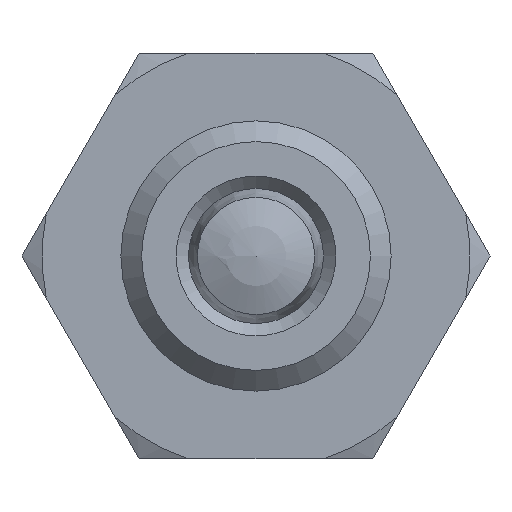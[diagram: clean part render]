
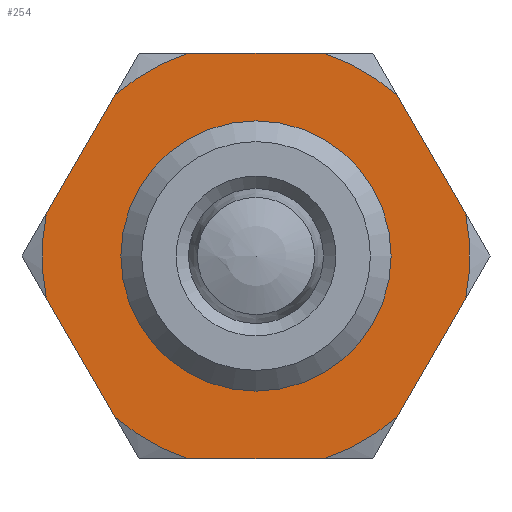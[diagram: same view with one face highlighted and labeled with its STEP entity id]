
A CAD part, left-side view. The second image highlights one B-rep face of the part: STEP entity #254.
In plain terms, the highlighted planar face has unit normal (-1, 0, 0) as drawn and (1, 0, 0) by its records, which use the part's own axes.
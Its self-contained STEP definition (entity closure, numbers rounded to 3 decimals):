
#254 = ADVANCED_FACE( '', ( #408, #409 ), #410, .F. );
#408 = FACE_BOUND( '', #582, .T. );
#409 = FACE_OUTER_BOUND( '', #583, .T. );
#410 = PLANE( '', #584 );
#582 = EDGE_LOOP( '', ( #908 ) );
#583 = EDGE_LOOP( '', ( #909, #910, #911, #912, #913, #914, #915, #916, #917, #918, #919, #920 ) );
#584 = AXIS2_PLACEMENT_3D( '', #921, #922, #923 );
#908 = ORIENTED_EDGE( '', *, *, #1114, .F. );
#909 = ORIENTED_EDGE( '', *, *, #1115, .T. );
#910 = ORIENTED_EDGE( '', *, *, #1116, .T. );
#911 = ORIENTED_EDGE( '', *, *, #1085, .T. );
#912 = ORIENTED_EDGE( '', *, *, #1117, .T. );
#913 = ORIENTED_EDGE( '', *, *, #1078, .T. );
#914 = ORIENTED_EDGE( '', *, *, #1118, .T. );
#915 = ORIENTED_EDGE( '', *, *, #1108, .T. );
#916 = ORIENTED_EDGE( '', *, *, #1093, .T. );
#917 = ORIENTED_EDGE( '', *, *, #1103, .T. );
#918 = ORIENTED_EDGE( '', *, *, #1119, .T. );
#919 = ORIENTED_EDGE( '', *, *, #1096, .T. );
#920 = ORIENTED_EDGE( '', *, *, #1120, .T. );
#921 = CARTESIAN_POINT( '', ( 6., 9.5, 0. ) );
#922 = DIRECTION( '', ( -1., 0., 0. ) );
#923 = DIRECTION( '', ( 0., 0., 1. ) );
#1078 = EDGE_CURVE( '', #1233, #1231, #1234, .T. );
#1085 = EDGE_CURVE( '', #1246, #1244, #1247, .T. );
#1093 = EDGE_CURVE( '', #1257, #1260, #1262, .T. );
#1096 = EDGE_CURVE( '', #1268, #1266, #1269, .T. );
#1103 = EDGE_CURVE( '', #1260, #1279, #1281, .T. );
#1108 = EDGE_CURVE( '', #1289, #1257, #1290, .T. );
#1114 = EDGE_CURVE( '', #1298, #1298, #1299, .T. );
#1115 = EDGE_CURVE( '', #1300, #1301, #1302, .T. );
#1116 = EDGE_CURVE( '', #1301, #1246, #1303, .T. );
#1117 = EDGE_CURVE( '', #1244, #1233, #1304, .T. );
#1118 = EDGE_CURVE( '', #1231, #1289, #1305, .T. );
#1119 = EDGE_CURVE( '', #1279, #1268, #1306, .T. );
#1120 = EDGE_CURVE( '', #1266, #1300, #1307, .T. );
#1231 = VERTEX_POINT( '', #1736 );
#1233 = VERTEX_POINT( '', #1741 );
#1234 = LINE( '', #1742, #1743 );
#1244 = VERTEX_POINT( '', #1764 );
#1246 = VERTEX_POINT( '', #1769 );
#1247 = LINE( '', #1770, #1771 );
#1257 = VERTEX_POINT( '', #1792 );
#1260 = VERTEX_POINT( '', #1798 );
#1262 = CIRCLE( '', #1803, 9.5 );
#1266 = VERTEX_POINT( '', #1808 );
#1268 = VERTEX_POINT( '', #1813 );
#1269 = LINE( '', #1814, #1815 );
#1279 = VERTEX_POINT( '', #1836 );
#1281 = LINE( '', #1841, #1842 );
#1289 = VERTEX_POINT( '', #1858 );
#1290 = LINE( '', #1859, #1860 );
#1298 = VERTEX_POINT( '', #1878 );
#1299 = CIRCLE( '', #1879, 6. );
#1300 = VERTEX_POINT( '', #1880 );
#1301 = VERTEX_POINT( '', #1881 );
#1302 = LINE( '', #1882, #1883 );
#1303 = CIRCLE( '', #1884, 9.5 );
#1304 = CIRCLE( '', #1885, 9.5 );
#1305 = CIRCLE( '', #1886, 9.5 );
#1306 = CIRCLE( '', #1887, 9.5 );
#1307 = CIRCLE( '', #1888, 9.5 );
#1736 = CARTESIAN_POINT( '', ( 6., -3.041, 9. ) );
#1741 = CARTESIAN_POINT( '', ( 6., 3.041, 9. ) );
#1742 = CARTESIAN_POINT( '', ( 6., 9.5, 9. ) );
#1743 = VECTOR( '', #2034, 1000. );
#1764 = CARTESIAN_POINT( '', ( 6., 6.274, 7.134 ) );
#1769 = CARTESIAN_POINT( '', ( 6., 9.315, 1.866 ) );
#1770 = CARTESIAN_POINT( '', ( 6., 10.169, 0.386 ) );
#1771 = VECTOR( '', #2037, 1000. );
#1792 = CARTESIAN_POINT( '', ( 6., -9.315, 1.866 ) );
#1798 = CARTESIAN_POINT( '', ( 6., -9.315, -1.866 ) );
#1803 = AXIS2_PLACEMENT_3D( '', #2040, #2041, #2042 );
#1808 = CARTESIAN_POINT( '', ( 6., 3.041, -9. ) );
#1813 = CARTESIAN_POINT( '', ( 6., -3.041, -9. ) );
#1814 = CARTESIAN_POINT( '', ( 6., 9.5, -9. ) );
#1815 = VECTOR( '', #2044, 1000. );
#1836 = CARTESIAN_POINT( '', ( 6., -6.274, -7.134 ) );
#1841 = CARTESIAN_POINT( '', ( 6., -5.419, -8.614 ) );
#1842 = VECTOR( '', #2047, 1000. );
#1858 = CARTESIAN_POINT( '', ( 6., -6.274, 7.134 ) );
#1859 = CARTESIAN_POINT( '', ( 6., -5.419, 8.614 ) );
#1860 = VECTOR( '', #2050, 1000. );
#1878 = CARTESIAN_POINT( '', ( 6., 0., -6. ) );
#1879 = AXIS2_PLACEMENT_3D( '', #2055, #2056, #2057 );
#1880 = CARTESIAN_POINT( '', ( 6., 6.274, -7.134 ) );
#1881 = CARTESIAN_POINT( '', ( 6., 9.315, -1.866 ) );
#1882 = CARTESIAN_POINT( '', ( 6., 10.169, -0.386 ) );
#1883 = VECTOR( '', #2058, 1000. );
#1884 = AXIS2_PLACEMENT_3D( '', #2059, #2060, #2061 );
#1885 = AXIS2_PLACEMENT_3D( '', #2062, #2063, #2064 );
#1886 = AXIS2_PLACEMENT_3D( '', #2065, #2066, #2067 );
#1887 = AXIS2_PLACEMENT_3D( '', #2068, #2069, #2070 );
#1888 = AXIS2_PLACEMENT_3D( '', #2071, #2072, #2073 );
#2034 = DIRECTION( '', ( 0., -1., 0. ) );
#2037 = DIRECTION( '', ( 0., -0.5, 0.866 ) );
#2040 = CARTESIAN_POINT( '', ( 6., 0., 0. ) );
#2041 = DIRECTION( '', ( 1., 0., 0. ) );
#2042 = DIRECTION( '', ( 0., 0., -1. ) );
#2044 = DIRECTION( '', ( 0., 1., 0. ) );
#2047 = DIRECTION( '', ( 0., 0.5, -0.866 ) );
#2050 = DIRECTION( '', ( 0., -0.5, -0.866 ) );
#2055 = CARTESIAN_POINT( '', ( 6., 0., 0. ) );
#2056 = DIRECTION( '', ( 1., 0., 0. ) );
#2057 = DIRECTION( '', ( 0., 0., -1. ) );
#2058 = DIRECTION( '', ( 0., 0.5, 0.866 ) );
#2059 = CARTESIAN_POINT( '', ( 6., 0., 0. ) );
#2060 = DIRECTION( '', ( 1., 0., 0. ) );
#2061 = DIRECTION( '', ( 0., 0., -1. ) );
#2062 = CARTESIAN_POINT( '', ( 6., 0., 0. ) );
#2063 = DIRECTION( '', ( 1., 0., 0. ) );
#2064 = DIRECTION( '', ( 0., 0., -1. ) );
#2065 = CARTESIAN_POINT( '', ( 6., 0., 0. ) );
#2066 = DIRECTION( '', ( 1., 0., 0. ) );
#2067 = DIRECTION( '', ( 0., 0., -1. ) );
#2068 = CARTESIAN_POINT( '', ( 6., 0., 0. ) );
#2069 = DIRECTION( '', ( 1., 0., 0. ) );
#2070 = DIRECTION( '', ( 0., 0., -1. ) );
#2071 = CARTESIAN_POINT( '', ( 6., 0., 0. ) );
#2072 = DIRECTION( '', ( 1., 0., 0. ) );
#2073 = DIRECTION( '', ( 0., 0., -1. ) );
